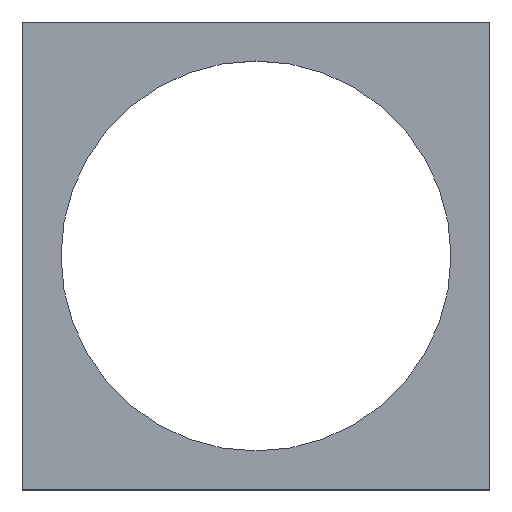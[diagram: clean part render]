
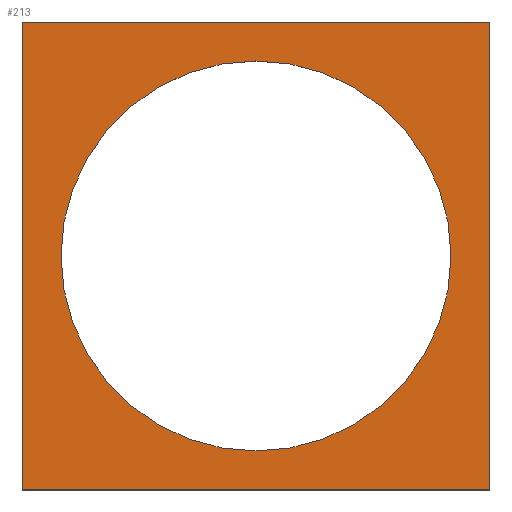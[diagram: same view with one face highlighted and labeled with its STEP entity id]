
A CAD part, top view. The second image highlights one B-rep face of the part: STEP entity #213.
In plain terms, the highlighted planar face has unit normal (0, 0, 1).
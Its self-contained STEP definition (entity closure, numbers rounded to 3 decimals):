
#24 = VERTEX_POINT('',#25);
#25 = CARTESIAN_POINT('',(20.,80.,741.));
#32 = PLANE('',#33);
#33 = AXIS2_PLACEMENT_3D('',#34,#35,#36);
#34 = CARTESIAN_POINT('',(20.,80.,738.));
#35 = DIRECTION('',(1.,0.,0.));
#36 = DIRECTION('',(0.,0.,1.));
#44 = PLANE('',#45);
#45 = AXIS2_PLACEMENT_3D('',#46,#47,#48);
#46 = CARTESIAN_POINT('',(20.,80.,738.));
#47 = DIRECTION('',(0.,1.,0.));
#48 = DIRECTION('',(0.,0.,1.));
#85 = VERTEX_POINT('',#86);
#86 = CARTESIAN_POINT('',(20.,200.,741.));
#100 = PLANE('',#101);
#101 = AXIS2_PLACEMENT_3D('',#102,#103,#104);
#102 = CARTESIAN_POINT('',(20.,200.,738.));
#103 = DIRECTION('',(0.,1.,0.));
#104 = DIRECTION('',(0.,0.,1.));
#112 = EDGE_CURVE('',#24,#85,#113,.T.);
#113 = SURFACE_CURVE('',#114,(#118,#125),.PCURVE_S1.);
#114 = LINE('',#115,#116);
#115 = CARTESIAN_POINT('',(20.,80.,741.));
#116 = VECTOR('',#117,1.);
#117 = DIRECTION('',(0.,1.,0.));
#118 = PCURVE('',#32,#119);
#119 = DEFINITIONAL_REPRESENTATION('',(#120),#124);
#120 = LINE('',#121,#122);
#121 = CARTESIAN_POINT('',(3.,0.));
#122 = VECTOR('',#123,1.);
#123 = DIRECTION('',(0.,-1.));
#124 = ( GEOMETRIC_REPRESENTATION_CONTEXT(2) 
PARAMETRIC_REPRESENTATION_CONTEXT() REPRESENTATION_CONTEXT('2D SPACE',''
  ) );
#125 = PCURVE('',#126,#131);
#126 = PLANE('',#127);
#127 = AXIS2_PLACEMENT_3D('',#128,#129,#130);
#128 = CARTESIAN_POINT('',(20.,80.,741.));
#129 = DIRECTION('',(0.,0.,1.));
#130 = DIRECTION('',(1.,0.,0.));
#131 = DEFINITIONAL_REPRESENTATION('',(#132),#136);
#132 = LINE('',#133,#134);
#133 = CARTESIAN_POINT('',(0.,0.));
#134 = VECTOR('',#135,1.);
#135 = DIRECTION('',(0.,1.));
#136 = ( GEOMETRIC_REPRESENTATION_CONTEXT(2) 
PARAMETRIC_REPRESENTATION_CONTEXT() REPRESENTATION_CONTEXT('2D SPACE',''
  ) );
#165 = EDGE_CURVE('',#24,#166,#168,.T.);
#166 = VERTEX_POINT('',#167);
#167 = CARTESIAN_POINT('',(140.,80.,741.));
#168 = SURFACE_CURVE('',#169,(#173,#180),.PCURVE_S1.);
#169 = LINE('',#170,#171);
#170 = CARTESIAN_POINT('',(20.,80.,741.));
#171 = VECTOR('',#172,1.);
#172 = DIRECTION('',(1.,0.,0.));
#173 = PCURVE('',#44,#174);
#174 = DEFINITIONAL_REPRESENTATION('',(#175),#179);
#175 = LINE('',#176,#177);
#176 = CARTESIAN_POINT('',(3.,0.));
#177 = VECTOR('',#178,1.);
#178 = DIRECTION('',(0.,1.));
#179 = ( GEOMETRIC_REPRESENTATION_CONTEXT(2) 
PARAMETRIC_REPRESENTATION_CONTEXT() REPRESENTATION_CONTEXT('2D SPACE',''
  ) );
#180 = PCURVE('',#126,#181);
#181 = DEFINITIONAL_REPRESENTATION('',(#182),#186);
#182 = LINE('',#183,#184);
#183 = CARTESIAN_POINT('',(0.,0.));
#184 = VECTOR('',#185,1.);
#185 = DIRECTION('',(1.,0.));
#186 = ( GEOMETRIC_REPRESENTATION_CONTEXT(2) 
PARAMETRIC_REPRESENTATION_CONTEXT() REPRESENTATION_CONTEXT('2D SPACE',''
  ) );
#202 = PLANE('',#203);
#203 = AXIS2_PLACEMENT_3D('',#204,#205,#206);
#204 = CARTESIAN_POINT('',(140.,80.,738.));
#205 = DIRECTION('',(1.,0.,0.));
#206 = DIRECTION('',(0.,0.,1.));
#213 = ADVANCED_FACE('',(#214,#262),#126,.T.);
#214 = FACE_BOUND('',#215,.T.);
#215 = EDGE_LOOP('',(#216,#217,#218,#241));
#216 = ORIENTED_EDGE('',*,*,#112,.F.);
#217 = ORIENTED_EDGE('',*,*,#165,.T.);
#218 = ORIENTED_EDGE('',*,*,#219,.T.);
#219 = EDGE_CURVE('',#166,#220,#222,.T.);
#220 = VERTEX_POINT('',#221);
#221 = CARTESIAN_POINT('',(140.,200.,741.));
#222 = SURFACE_CURVE('',#223,(#227,#234),.PCURVE_S1.);
#223 = LINE('',#224,#225);
#224 = CARTESIAN_POINT('',(140.,80.,741.));
#225 = VECTOR('',#226,1.);
#226 = DIRECTION('',(0.,1.,0.));
#227 = PCURVE('',#126,#228);
#228 = DEFINITIONAL_REPRESENTATION('',(#229),#233);
#229 = LINE('',#230,#231);
#230 = CARTESIAN_POINT('',(120.,0.));
#231 = VECTOR('',#232,1.);
#232 = DIRECTION('',(0.,1.));
#233 = ( GEOMETRIC_REPRESENTATION_CONTEXT(2) 
PARAMETRIC_REPRESENTATION_CONTEXT() REPRESENTATION_CONTEXT('2D SPACE',''
  ) );
#234 = PCURVE('',#202,#235);
#235 = DEFINITIONAL_REPRESENTATION('',(#236),#240);
#236 = LINE('',#237,#238);
#237 = CARTESIAN_POINT('',(3.,0.));
#238 = VECTOR('',#239,1.);
#239 = DIRECTION('',(0.,-1.));
#240 = ( GEOMETRIC_REPRESENTATION_CONTEXT(2) 
PARAMETRIC_REPRESENTATION_CONTEXT() REPRESENTATION_CONTEXT('2D SPACE',''
  ) );
#241 = ORIENTED_EDGE('',*,*,#242,.F.);
#242 = EDGE_CURVE('',#85,#220,#243,.T.);
#243 = SURFACE_CURVE('',#244,(#248,#255),.PCURVE_S1.);
#244 = LINE('',#245,#246);
#245 = CARTESIAN_POINT('',(20.,200.,741.));
#246 = VECTOR('',#247,1.);
#247 = DIRECTION('',(1.,0.,0.));
#248 = PCURVE('',#126,#249);
#249 = DEFINITIONAL_REPRESENTATION('',(#250),#254);
#250 = LINE('',#251,#252);
#251 = CARTESIAN_POINT('',(0.,120.));
#252 = VECTOR('',#253,1.);
#253 = DIRECTION('',(1.,0.));
#254 = ( GEOMETRIC_REPRESENTATION_CONTEXT(2) 
PARAMETRIC_REPRESENTATION_CONTEXT() REPRESENTATION_CONTEXT('2D SPACE',''
  ) );
#255 = PCURVE('',#100,#256);
#256 = DEFINITIONAL_REPRESENTATION('',(#257),#261);
#257 = LINE('',#258,#259);
#258 = CARTESIAN_POINT('',(3.,0.));
#259 = VECTOR('',#260,1.);
#260 = DIRECTION('',(0.,1.));
#261 = ( GEOMETRIC_REPRESENTATION_CONTEXT(2) 
PARAMETRIC_REPRESENTATION_CONTEXT() REPRESENTATION_CONTEXT('2D SPACE',''
  ) );
#262 = FACE_BOUND('',#263,.T.);
#263 = EDGE_LOOP('',(#264));
#264 = ORIENTED_EDGE('',*,*,#265,.T.);
#265 = EDGE_CURVE('',#266,#266,#268,.T.);
#266 = VERTEX_POINT('',#267);
#267 = CARTESIAN_POINT('',(130.,140.,741.));
#268 = SURFACE_CURVE('',#269,(#274,#285),.PCURVE_S1.);
#269 = CIRCLE('',#270,50.);
#270 = AXIS2_PLACEMENT_3D('',#271,#272,#273);
#271 = CARTESIAN_POINT('',(80.,140.,741.));
#272 = DIRECTION('',(0.,0.,-1.));
#273 = DIRECTION('',(1.,0.,0.));
#274 = PCURVE('',#126,#275);
#275 = DEFINITIONAL_REPRESENTATION('',(#276),#284);
#276 = ( BOUNDED_CURVE() B_SPLINE_CURVE(2,(#277,#278,#279,#280,#281,#282
,#283),.UNSPECIFIED.,.T.,.F.) B_SPLINE_CURVE_WITH_KNOTS((1,2,2,2,2,1),(
    -2.094,0.,2.094,4.189,6.283,
8.378),.UNSPECIFIED.) CURVE() GEOMETRIC_REPRESENTATION_ITEM() 
RATIONAL_B_SPLINE_CURVE((1.,0.5,1.,0.5,1.,0.5,1.)) REPRESENTATION_ITEM(
  '') );
#277 = CARTESIAN_POINT('',(110.,60.));
#278 = CARTESIAN_POINT('',(110.,-26.603));
#279 = CARTESIAN_POINT('',(35.,16.699));
#280 = CARTESIAN_POINT('',(-40.,60.));
#281 = CARTESIAN_POINT('',(35.,103.301));
#282 = CARTESIAN_POINT('',(110.,146.603));
#283 = CARTESIAN_POINT('',(110.,60.));
#284 = ( GEOMETRIC_REPRESENTATION_CONTEXT(2) 
PARAMETRIC_REPRESENTATION_CONTEXT() REPRESENTATION_CONTEXT('2D SPACE',''
  ) );
#285 = PCURVE('',#286,#291);
#286 = CYLINDRICAL_SURFACE('',#287,50.);
#287 = AXIS2_PLACEMENT_3D('',#288,#289,#290);
#288 = CARTESIAN_POINT('',(80.,140.,737.));
#289 = DIRECTION('',(-0.,-0.,-1.));
#290 = DIRECTION('',(1.,0.,0.));
#291 = DEFINITIONAL_REPRESENTATION('',(#292),#296);
#292 = LINE('',#293,#294);
#293 = CARTESIAN_POINT('',(-6.283,-4.));
#294 = VECTOR('',#295,1.);
#295 = DIRECTION('',(1.,-0.));
#296 = ( GEOMETRIC_REPRESENTATION_CONTEXT(2) 
PARAMETRIC_REPRESENTATION_CONTEXT() REPRESENTATION_CONTEXT('2D SPACE',''
  ) );
